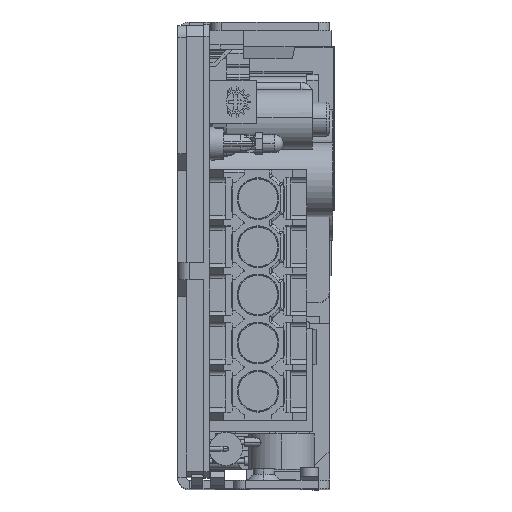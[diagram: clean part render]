
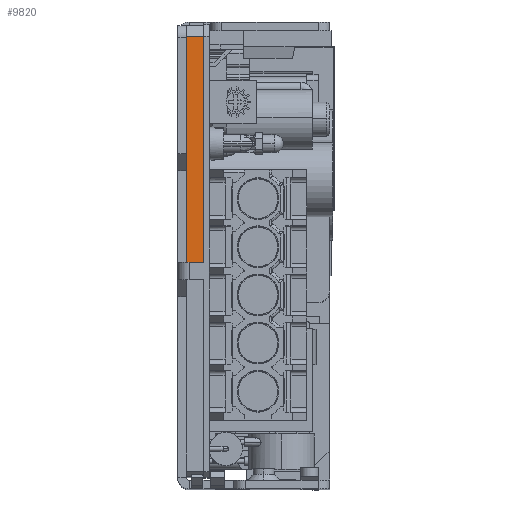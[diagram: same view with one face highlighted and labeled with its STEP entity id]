
A CAD part, top view. The second image highlights one B-rep face of the part: STEP entity #9820.
In plain terms, the highlighted planar face has unit normal (0, 0, 1).
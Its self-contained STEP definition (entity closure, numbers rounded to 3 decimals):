
#1327 = CARTESIAN_POINT ( 'NONE',  ( 4.5, 2.1, -0.1 ) ) ;
#5349 = CARTESIAN_POINT ( 'NONE',  ( 4.5, 78.9, -0.1 ) ) ;
#8557 = CARTESIAN_POINT ( 'NONE',  ( 4.5, 78.9, -0.1 ) ) ;
#9820 = ADVANCED_FACE ( 'NONE', ( #121987 ), #102758, .F. ) ;
#11057 = VECTOR ( 'NONE', #114129, 1000. ) ;
#14215 = LINE ( 'NONE', #1327, #11057 ) ;
#19455 = DIRECTION ( 'NONE',  ( 0., -1., 0. ) ) ;
#19834 = VERTEX_POINT ( 'NONE', #117201 ) ;
#21525 = LINE ( 'NONE', #8557, #35260 ) ;
#24180 = VECTOR ( 'NONE', #42892, 1000. ) ;
#32303 = CARTESIAN_POINT ( 'NONE',  ( 1.5, 2.1, -0.1 ) ) ;
#34588 = ORIENTED_EDGE ( 'NONE', *, *, #71492, .T. ) ;
#34738 = CARTESIAN_POINT ( 'NONE',  ( 1.5, 39.5, -0.1 ) ) ;
#35260 = VECTOR ( 'NONE', #121409, 1000. ) ;
#37170 = ORIENTED_EDGE ( 'NONE', *, *, #96470, .F. ) ;
#39782 = VECTOR ( 'NONE', #96886, 1000. ) ;
#40576 = ORIENTED_EDGE ( 'NONE', *, *, #114308, .T. ) ;
#42892 = DIRECTION ( 'NONE',  ( 1., 0., 0. ) ) ;
#45131 = LINE ( 'NONE', #32303, #104488 ) ;
#54579 = VERTEX_POINT ( 'NONE', #34738 ) ;
#55777 = CARTESIAN_POINT ( 'NONE',  ( 1.5, 39.5, -0.1 ) ) ;
#59071 = VERTEX_POINT ( 'NONE', #90125 ) ;
#64171 = DIRECTION ( 'NONE',  ( 0., 1., 0. ) ) ;
#67287 = CARTESIAN_POINT ( 'NONE',  ( 2., 39.5, -0.1 ) ) ;
#68690 = LINE ( 'NONE', #55777, #24180 ) ;
#71492 = EDGE_CURVE ( 'NONE', #108404, #19834, #68690, .T. ) ;
#77030 = DIRECTION ( 'NONE',  ( 0., 0., -1. ) ) ;
#83664 = DIRECTION ( 'NONE',  ( -1., 0., 0. ) ) ;
#86721 = VERTEX_POINT ( 'NONE', #119006 ) ;
#89970 = CARTESIAN_POINT ( 'NONE',  ( 4.5, 2.1, -0.1 ) ) ;
#90125 = CARTESIAN_POINT ( 'NONE',  ( 1.5, 58.4, -0.1 ) ) ;
#93851 = ORIENTED_EDGE ( 'NONE', *, *, #101265, .F. ) ;
#96470 = EDGE_CURVE ( 'NONE', #108404, #54579, #109459, .T. ) ;
#96527 = CARTESIAN_POINT ( 'NONE',  ( 2., 39.5, -0.1 ) ) ;
#96886 = DIRECTION ( 'NONE',  ( 0., -1., 0. ) ) ;
#97119 = VERTEX_POINT ( 'NONE', #5349 ) ;
#101265 = EDGE_CURVE ( 'NONE', #97119, #19834, #14215, .T. ) ;
#102758 = PLANE ( 'NONE',  #118649 ) ;
#102839 = ORIENTED_EDGE ( 'NONE', *, *, #122920, .T. ) ;
#104488 = VECTOR ( 'NONE', #19455, 1000. ) ;
#104515 = ORIENTED_EDGE ( 'NONE', *, *, #116117, .T. ) ;
#105233 = EDGE_LOOP ( 'NONE', ( #37170, #34588, #93851, #104515, #102839, #40576 ) ) ;
#108404 = VERTEX_POINT ( 'NONE', #67287 ) ;
#109459 = LINE ( 'NONE', #96527, #112851 ) ;
#109812 = CARTESIAN_POINT ( 'NONE',  ( 1.5, 2.1, -0.1 ) ) ;
#112851 = VECTOR ( 'NONE', #83664, 1000. ) ;
#114129 = DIRECTION ( 'NONE',  ( 0., -1., 0. ) ) ;
#114308 = EDGE_CURVE ( 'NONE', #59071, #54579, #122693, .T. ) ;
#116117 = EDGE_CURVE ( 'NONE', #97119, #86721, #21525, .T. ) ;
#117201 = CARTESIAN_POINT ( 'NONE',  ( 4.5, 39.5, -0.1 ) ) ;
#118649 = AXIS2_PLACEMENT_3D ( 'NONE', #89970, #77030, #64171 ) ;
#119006 = CARTESIAN_POINT ( 'NONE',  ( 1.5, 78.9, -0.1 ) ) ;
#121409 = DIRECTION ( 'NONE',  ( -1., 0., 0. ) ) ;
#121987 = FACE_OUTER_BOUND ( 'NONE', #105233, .T. ) ;
#122693 = LINE ( 'NONE', #109812, #39782 ) ;
#122920 = EDGE_CURVE ( 'NONE', #86721, #59071, #45131, .T. ) ;
